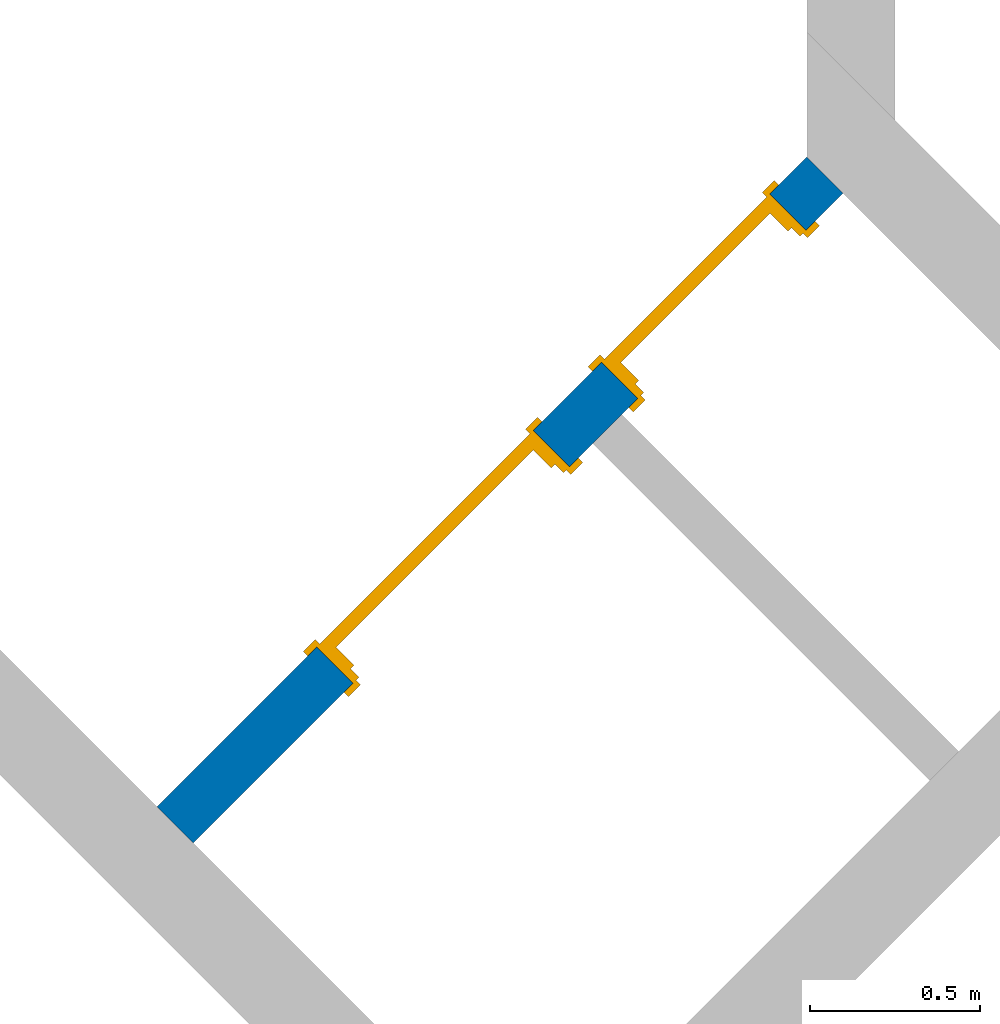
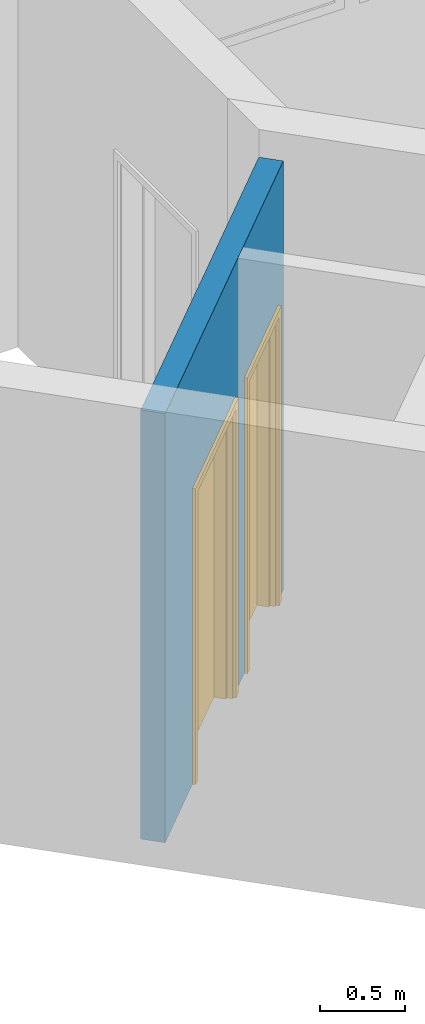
# One storey, part 10 of 25: 2 doors, 1 wall, 2 openings.
"""IFC2X3 building model written with IfcOpenShell, lengths in millimetres."""

from ifc_helpers import new_model, entity, si_unit, converted_unit, derived_unit, money_unit, direction, frame, origin_with_axes, place, context, subcontext, project, spatial, faceted_brep, source, transform, mapped, material, type_object, element, fill, save


model = new_model("IFC2X3")

# Units and contexts
model_context = context("Model", 3, precision=0.01, world=origin_with_axes(), true_north=direction((0.0, 1.0)))
body_context = subcontext(model_context, "Body", "Model", "MODEL_VIEW")
ifc_project = project(units=[si_unit("LENGTHUNIT", "METRE", prefix="MILLI"), si_unit("AREAUNIT", "SQUARE_METRE"), si_unit("VOLUMEUNIT", "CUBIC_METRE"), converted_unit("PLANEANGLEUNIT", "DEGREE", entity("IfcPlaneAngleMeasure", 0.0174532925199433), si_unit("PLANEANGLEUNIT", "RADIAN"), dimensions=[0, 0, 0, 0, 0, 0, 0]), money_unit("USD"), converted_unit("TIMEUNIT", "Year", entity("IfcTimeMeasure", 31557600.0), si_unit("TIMEUNIT", "SECOND"), dimensions=[0, 0, 1, 0, 0, 0, 0]), si_unit("MASSUNIT", "GRAM", prefix="KILO"), si_unit("THERMODYNAMICTEMPERATUREUNIT", "DEGREE_CELSIUS"), si_unit("LUMINOUSINTENSITYUNIT", "LUMEN"), si_unit("ENERGYUNIT", "JOULE", prefix="MEGA"), derived_unit("THERMALCONDUCTANCEUNIT", [(si_unit("POWERUNIT", "WATT"), 1), (si_unit("LENGTHUNIT", "METRE"), -1), (si_unit("THERMODYNAMICTEMPERATUREUNIT", "KELVIN"), -1)]), derived_unit("SPECIFICHEATCAPACITYUNIT", [(si_unit("ENERGYUNIT", "JOULE"), 1), (si_unit("MASSUNIT", "GRAM", prefix="KILO"), -1), (si_unit("THERMODYNAMICTEMPERATUREUNIT", "KELVIN"), -1)]), derived_unit("MASSDENSITYUNIT", [(si_unit("MASSUNIT", "GRAM", prefix="KILO"), 1), (si_unit("VOLUMEUNIT", "CUBIC_METRE"), -1)])], contexts=[model_context])

# Site, building, storey
site_placement = place(None, origin_with_axes())
site = spatial("IfcSite", under=ifc_project, at=site_placement, Name="Site", CompositionType="ELEMENT")
building_placement = place(site_placement, origin_with_axes())
building = spatial("IfcBuilding", under=site, at=building_placement, Name="Building", CompositionType="ELEMENT")
storey_placement = place(building_placement, origin_with_axes())
storey = spatial("IfcBuildingStorey", under=building, at=storey_placement, Name="U ETG", CompositionType="ELEMENT", Elevation=0.0)

# Wall, openings, doors
ifc_material = material(Name="GENERIC - INTERNAL FILLER")
wall_type = type_object("IfcWallType", Name="GENERIC - INTERNAL FILLER 150", PredefinedType="NOTDEFINED")
wall_placement = place(storey_placement, frame((53558.92192135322, 2340.649007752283, 0.0), z_axis=(0.0, 0.0, 1.0), x_axis=(0.7071067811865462, 0.7071067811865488, 0.0)))
wall = element("IfcWall", 1, at=wall_placement, inside=storey, type_object=wall_type, material=ifc_material, Name="SW - 001", context=body_context, shape_type="Brep", body=[
    faceted_brep([(1846.478266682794, -149.9999999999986, 0.0), (1846.478266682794, -149.9999999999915, 2100.0), (2546.47826668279, -149.9999999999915, 2100.0), (2546.478266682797, -149.9999999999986, 0.0), (2699.62327068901, -149.9999999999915, 0.0), (2699.62327068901, -149.9999999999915, 3100.0), (0.0, -149.9999999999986, 3100.0), (0.0, -149.9999999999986, 0.0), (663.1083393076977, -149.9999999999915, 0.0), (663.1083393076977, -149.9999999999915, 2100.0), (1563.108339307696, -149.9999999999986, 2100.0), (1563.108339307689, -149.9999999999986, 0.0), (1846.478266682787, 0.0, 0.0), (1846.47826668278, 0.0, 2100.0), (2546.47826668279, 0.0, 2100.0), (2546.47826668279, 0.0, 0.0), (2699.62327068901, 0.0, 0.0), (2699.62327068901, 0.0, 3100.0), (0.0, 0.0, 3100.0), (0.0, 0.0, 0.0), (663.1083393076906, 0.0, 0.0), (663.1083393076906, 0.0, 2100.0), (1563.108339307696, 0.0, 2100.0), (1563.108339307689, 0.0, 0.0)], [[[0, 1, 2, 3, 4, 5, 6, 7, 8, 9, 10, 11]], [[1, 0, 12, 13]], [[2, 1, 13, 14]], [[3, 2, 14, 15]], [[3, 15, 16, 4]], [[5, 4, 16, 17]], [[17, 18, 6, 5]], [[6, 18, 19, 7]], [[8, 7, 19, 20]], [[8, 20, 21, 9]], [[9, 21, 22, 10]], [[10, 22, 23, 11]], [[12, 0, 11, 23]], [[13, 12, 23, 22, 21, 20, 19, 18, 17, 16, 15, 14]]]),
])
opening_1_placement = place(wall_placement, frame((1113.108339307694, 0.0, 0.0), z_axis=(0.0, 0.0, 1.0), x_axis=(1.0, 0.0, 0.0)))
opening_1 = element("IfcOpeningElement", 2, at=opening_1_placement, cuts=wall, Name="DOO - 002", context=body_context, shape_type="Brep", body=[
    faceted_brep([(450.0000000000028, 0.0, 0.0), (450.0000000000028, 0.0, 2100.0), (449.9999999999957, -149.9999999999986, 2100.0), (449.9999999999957, -149.9999999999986, 0.0), (-449.9999999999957, 0.0, 2100.0), (487.0000000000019, 0.0, 0.0), (487.0000000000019, 0.0, 2137.0), (-487.0000000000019, 0.0, 2137.0), (-487.0000000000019, 0.0, 0.0), (-450.0000000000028, 0.0, 0.0), (-449.9999999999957, -149.9999999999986, 2100.0), (-450.0000000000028, -150.0000000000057, 0.0), (-486.9999999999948, -149.9999999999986, 0.0), (-486.9999999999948, -149.9999999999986, 2137.0), (487.0000000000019, -149.9999999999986, 2137.0), (487.0000000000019, -149.9999999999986, 0.0), (450.0000000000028, 1350.811635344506, 0.0), (450.0000000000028, -1500.811635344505, 0.0), (-449.9999999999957, -1500.811635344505, 0.0), (-449.9999999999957, 1350.811635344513, 0.0), (487.0000000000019, 1350.811635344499, 0.0), (487.0000000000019, 1350.811635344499, 2137.0), (-487.0000000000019, 1350.811635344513, 2137.0), (-487.0000000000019, 1350.811635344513, 0.0), (-486.9999999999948, -1500.811635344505, 0.0), (-486.9999999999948, -1500.811635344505, 2137.0), (487.0000000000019, -1500.811635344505, 2137.0), (487.0000000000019, -1500.811635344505, 0.0), (450.0000000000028, 1350.811635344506, 2100.0), (-449.9999999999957, 1350.811635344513, 2100.0)], [[[0, 1, 2, 3]], [[4, 1, 0, 5, 6, 7, 8, 9]], [[1, 4, 10, 2]], [[3, 2, 10, 11, 12, 13, 14, 15]], [[16, 0, 3, 17, 18, 11, 9, 19]], [[0, 16, 20, 5]], [[6, 5, 20, 21]], [[7, 6, 21, 22]], [[8, 7, 22, 23]], [[19, 9, 8, 23]], [[4, 9, 11, 10]], [[11, 18, 24, 12]], [[13, 12, 24, 25]], [[14, 13, 25, 26]], [[15, 14, 26, 27]], [[17, 3, 15, 27]], [[17, 27, 26, 25, 24, 18]], [[28, 16, 19, 29]], [[16, 28, 29, 19, 23, 22, 21, 20]]]),
])
opening_2_placement = place(wall_placement, frame((2196.478266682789, 0.0, 0.0), z_axis=(0.0, 0.0, 1.0), x_axis=(1.0, 0.0, 0.0)))
opening_2 = element("IfcOpeningElement", 3, at=opening_2_placement, cuts=wall, Name="DOO - 002", context=body_context, shape_type="Brep", body=[
    faceted_brep([(350.0000000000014, 0.0, 0.0), (350.0000000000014, 0.0, 2100.0), (350.0000000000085, -149.9999999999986, 2100.0), (350.0000000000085, -149.9999999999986, 0.0), (-349.9999999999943, 0.0, 2100.0), (387.0000000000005, 0.0, 0.0), (387.0000000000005, 0.0, 2137.0), (-386.9999999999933, 0.0, 2137.0), (-386.9999999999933, 0.0, 0.0), (-350.0000000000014, 0.0, 0.0), (-349.9999999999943, -149.9999999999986, 2100.0), (-349.9999999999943, -149.9999999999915, 0.0), (-387.0000000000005, -149.9999999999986, 0.0), (-387.0000000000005, -149.9999999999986, 2137.0), (387.0000000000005, -149.9999999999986, 2137.0), (387.0000000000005, -149.9999999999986, 0.0), (350.0000000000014, 1350.811635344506, 0.0), (350.0000000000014, -1500.811635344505, 0.0), (-350.0000000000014, -1500.811635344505, 0.0), (-349.9999999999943, 1350.811635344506, 0.0), (387.0000000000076, 1350.811635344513, 0.0), (387.0000000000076, 1350.811635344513, 2137.0), (-387.0000000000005, 1350.811635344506, 2137.0), (-387.0000000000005, 1350.811635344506, 0.0), (-387.0000000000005, -1500.811635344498, 0.0), (-387.0000000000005, -1500.811635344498, 2137.0), (387.0000000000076, -1500.811635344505, 2137.0), (387.0000000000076, -1500.811635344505, 0.0), (350.0000000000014, 1350.811635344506, 2100.0), (-349.9999999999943, 1350.811635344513, 2100.0)], [[[0, 1, 2, 3]], [[4, 1, 0, 5, 6, 7, 8, 9]], [[1, 4, 10, 2]], [[3, 2, 10, 11, 12, 13, 14, 15]], [[16, 0, 3, 17, 18, 11, 9, 19]], [[0, 16, 20, 5]], [[6, 5, 20, 21]], [[7, 6, 21, 22]], [[8, 7, 22, 23]], [[19, 9, 8, 23]], [[4, 9, 11, 10]], [[11, 18, 24, 12]], [[13, 12, 24, 25]], [[14, 13, 25, 26]], [[15, 14, 26, 27]], [[17, 3, 15, 27]], [[17, 27, 26, 25, 24, 18]], [[28, 16, 19, 29]], [[16, 28, 29, 19, 23, 22, 21, 20]]]),
])
door_style_1 = type_object("IfcDoorStyle", Name="Dør", ConstructionType="NOTDEFINED", OperationType="SINGLE_SWING_LEFT", ParameterTakesPrecedence=False, Sizeable=False)
shared_shape_1 = source(origin_with_axes(), body_context, "Body", "Brep", [
    faceted_brep([(450.0, -115.0, 0.0), (450.0, -150.0, 0.0), (425.0, -150.0, 0.0), (425.0, -115.0, 0.0), (450.0, -115.0000000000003, 2100.0), (450.0, -150.0000000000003, 2100.0), (425.0, -150.0000000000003, 2075.0), (425.0, -115.0000000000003, 2075.0)], [[[0, 1, 2, 3]], [[4, 5, 1, 0]], [[1, 5, 6, 2]], [[3, 2, 6, 7]], [[0, 3, 7, 4]], [[7, 6, 5, 4]]]),
    faceted_brep([(-450.0, -115.0000000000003, 2100.0), (-450.0, -150.0000000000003, 2100.0), (-425.0, -150.0000000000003, 2075.0), (-425.0, -115.0000000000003, 2075.0), (-450.0, -115.0, 0.0), (-450.0, -150.0, 0.0), (-425.0, -150.0, 0.0), (-425.0, -115.0, 0.0)], [[[0, 1, 2, 3]], [[4, 5, 1, 0]], [[1, 5, 6, 2]], [[3, 2, 6, 7]], [[0, 3, 7, 4]], [[7, 6, 5, 4]]]),
    faceted_brep([(425.0, -115.0000000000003, 2075.0), (425.0, -150.0000000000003, 2075.0), (-425.0, -150.0000000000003, 2075.0), (-425.0, -115.0000000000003, 2075.0), (450.0, -115.0000000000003, 2100.0), (450.0, -150.0000000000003, 2100.0), (-450.0, -150.0000000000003, 2100.0), (-450.0, -115.0000000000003, 2100.0)], [[[0, 1, 2, 3]], [[4, 5, 1, 0]], [[1, 5, 6, 2]], [[3, 2, 6, 7]], [[0, 3, 7, 4]], [[7, 6, 5, 4]]]),
    faceted_brep([(487.0, -169.0, 0.0), (437.0, -169.0, 0.0), (437.0, -150.0, 0.0), (487.0, -150.0, 0.0), (487.0, -169.0000000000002, 2137.0), (437.0, -169.0000000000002, 2087.0), (437.0, -150.0000000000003, 2087.0), (487.0, -150.0000000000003, 2137.0)], [[[0, 1, 2, 3]], [[0, 4, 5, 1]], [[1, 5, 6, 2]], [[3, 2, 6, 7]], [[4, 0, 3, 7]], [[5, 4, 7, 6]]]),
    faceted_brep([(-487.0, -169.0000000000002, 2137.0), (-437.0, -169.0000000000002, 2087.0), (-437.0, -150.0000000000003, 2087.0), (-487.0, -150.0000000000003, 2137.0), (-487.0, -169.0, 0.0), (-437.0, -169.0, 0.0), (-437.0, -150.0, 0.0), (-487.0, -150.0, 0.0)], [[[0, 1, 2, 3]], [[0, 4, 5, 1]], [[1, 5, 6, 2]], [[3, 2, 6, 7]], [[4, 0, 3, 7]], [[5, 4, 7, 6]]]),
    faceted_brep([(487.0, -169.0000000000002, 2137.0), (437.0, -169.0000000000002, 2087.0), (437.0, -150.0000000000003, 2087.0), (487.0, -150.0000000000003, 2137.0), (-487.0, -169.0000000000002, 2137.0), (-437.0, -169.0000000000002, 2087.0), (-437.0, -150.0000000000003, 2087.0), (-487.0, -150.0000000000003, 2137.0)], [[[0, 1, 2, 3]], [[0, 4, 5, 1]], [[1, 5, 6, 2]], [[3, 2, 6, 7]], [[4, 0, 3, 7]], [[5, 4, 7, 6]]]),
    faceted_brep([(487.0, 19.0, 0.0), (487.0, 0.0, 0.0), (437.0, 0.0, 0.0), (437.0, 19.0, 0.0), (487.0, 18.99999999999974, 2137.0), (487.0, 0.0, 2137.0), (437.0, 0.0, 2087.0), (437.0, 18.99999999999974, 2087.0)], [[[0, 1, 2, 3]], [[4, 5, 1, 0]], [[1, 5, 6, 2]], [[3, 2, 6, 7]], [[0, 3, 7, 4]], [[7, 6, 5, 4]]]),
    faceted_brep([(-487.0, 18.99999999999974, 2137.0), (-487.0, 0.0, 2137.0), (-437.0, 0.0, 2087.0), (-437.0, 18.99999999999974, 2087.0), (-487.0, 19.0, 0.0), (-487.0, 0.0, 0.0), (-437.0, 0.0, 0.0), (-437.0, 19.0, 0.0)], [[[0, 1, 2, 3]], [[4, 5, 1, 0]], [[1, 5, 6, 2]], [[3, 2, 6, 7]], [[0, 3, 7, 4]], [[7, 6, 5, 4]]]),
    faceted_brep([(487.0, 18.99999999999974, 2137.0), (487.0, 0.0, 2137.0), (437.0, 0.0, 2087.0), (437.0, 18.99999999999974, 2087.0), (-487.0, 18.99999999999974, 2137.0), (-487.0, 0.0, 2137.0), (-437.0, 0.0, 2087.0), (-437.0, 18.99999999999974, 2087.0)], [[[0, 1, 2, 3]], [[4, 5, 1, 0]], [[1, 5, 6, 2]], [[3, 2, 6, 7]], [[0, 3, 7, 4]], [[7, 6, 5, 4]]]),
    faceted_brep([(450.0, 0.0, 0.0), (450.0, -115.0, 0.0), (410.0000000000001, -115.0, 0.0), (410.0000000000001, 0.0, 0.0), (450.0, 0.0, 2060.0), (450.0, -115.0, 2060.0), (410.0000000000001, -115.0, 2060.0), (410.0000000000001, 0.0, 2060.0)], [[[0, 1, 2, 3]], [[4, 5, 1, 0]], [[1, 5, 6, 2]], [[3, 2, 6, 7]], [[0, 3, 7, 4]], [[7, 6, 5, 4]]]),
    faceted_brep([(-450.0, 0.0, 0.0), (-450.0, -115.0, 0.0), (-450.0, -115.0, 2060.0), (-450.0, 0.0, 2060.0), (-410.0000000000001, 0.0, 0.0), (-410.0000000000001, -115.0, 0.0), (-410.0000000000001, -115.0, 2060.0), (-410.0000000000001, 0.0, 2060.0)], [[[0, 1, 2, 3]], [[4, 5, 1, 0]], [[1, 5, 6, 2]], [[3, 2, 6, 7]], [[0, 3, 7, 4]], [[7, 6, 5, 4]]]),
    faceted_brep([(450.0, 0.0, 2100.0), (450.0, -115.0, 2100.0), (450.0, -115.0, 2060.0), (450.0, 0.0, 2060.0), (-450.0, 0.0, 2100.0), (-450.0, -115.0, 2100.0), (-450.0, -115.0, 2060.0), (-410.0000000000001, -115.0, 2060.0), (410.0000000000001, -115.0, 2060.0), (410.0000000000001, 0.0, 2060.0), (-410.0000000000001, 0.0, 2060.0), (-450.0, 0.0, 2060.0)], [[[0, 1, 2, 3]], [[4, 5, 1, 0]], [[1, 5, 6, 7, 8, 2]], [[3, 2, 8, 9]], [[0, 3, 9, 10, 11, 4]], [[11, 6, 5, 4]], [[10, 7, 6, 11]], [[9, 8, 7, 10]]]),
    faceted_brep([(-409.9999999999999, 0.0, 0.0), (410.0000000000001, 0.0, 0.0), (410.0000000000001, -40.0, 0.0), (-409.9999999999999, -40.0, 0.0), (-409.9999999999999, 0.0, 2060.0), (410.0000000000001, 0.0, 2060.0), (410.0000000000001, -40.00000000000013, 2060.0), (-409.9999999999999, -40.00000000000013, 2060.0)], [[[0, 1, 2, 3]], [[0, 4, 5, 1]], [[1, 5, 6, 2]], [[3, 2, 6, 7]], [[4, 0, 3, 7]], [[5, 4, 7, 6]]]),
])
door_1_placement = place(opening_1_placement, frame((-450.0000000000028, 0.0, 0.0), z_axis=(0.0, 0.0, 1.0), x_axis=(1.0, 0.0, 0.0)))
door_1 = element("IfcDoor", 4, at=door_1_placement, inside=storey, type_object=door_style_1, Name="DOO - 002", ObjectType="DOOR", OverallHeight=2100.0, OverallWidth=900.0, context=body_context, shape_type="MappedRepresentation", body=[
    mapped(shared_shape_1, transform((450.0000000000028, 0.0, 0.0))),
])
fill(opening_1, door_1)
door_style_2 = type_object("IfcDoorStyle", Name="Dør", ConstructionType="NOTDEFINED", OperationType="SINGLE_SWING_RIGHT", ParameterTakesPrecedence=False, Sizeable=False)
shared_shape_2 = source(origin_with_axes(), body_context, "Body", "Brep", [
    faceted_brep([(-350.0, -115.0, 0.0), (-324.9999999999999, -115.0, 0.0), (-324.9999999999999, -150.0, 0.0), (-350.0, -150.0, 0.0), (-350.0, -115.0000000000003, 2100.0), (-324.9999999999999, -115.0000000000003, 2075.0), (-324.9999999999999, -150.0000000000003, 2075.0), (-350.0, -150.0000000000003, 2100.0)], [[[0, 1, 2, 3]], [[0, 4, 5, 1]], [[1, 5, 6, 2]], [[3, 2, 6, 7]], [[4, 0, 3, 7]], [[5, 4, 7, 6]]]),
    faceted_brep([(350.0, -115.0000000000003, 2100.0), (324.9999999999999, -115.0000000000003, 2075.0), (324.9999999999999, -150.0000000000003, 2075.0), (350.0, -150.0000000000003, 2100.0), (350.0, -115.0, 0.0), (324.9999999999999, -115.0, 0.0), (324.9999999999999, -150.0, 0.0), (350.0, -150.0, 0.0)], [[[0, 1, 2, 3]], [[0, 4, 5, 1]], [[1, 5, 6, 2]], [[3, 2, 6, 7]], [[4, 0, 3, 7]], [[5, 4, 7, 6]]]),
    faceted_brep([(-324.9999999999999, -115.0000000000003, 2075.0), (324.9999999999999, -115.0000000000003, 2075.0), (324.9999999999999, -150.0000000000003, 2075.0), (-324.9999999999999, -150.0000000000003, 2075.0), (-350.0, -115.0000000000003, 2100.0), (350.0, -115.0000000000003, 2100.0), (350.0, -150.0000000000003, 2100.0), (-350.0, -150.0000000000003, 2100.0)], [[[0, 1, 2, 3]], [[0, 4, 5, 1]], [[1, 5, 6, 2]], [[3, 2, 6, 7]], [[4, 0, 3, 7]], [[5, 4, 7, 6]]]),
    faceted_brep([(-386.9999999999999, -169.0, 0.0), (-386.9999999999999, -150.0, 0.0), (-336.9999999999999, -150.0, 0.0), (-336.9999999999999, -169.0, 0.0), (-386.9999999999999, -169.0000000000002, 2137.0), (-386.9999999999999, -150.0000000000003, 2137.0), (-336.9999999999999, -150.0000000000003, 2087.0), (-336.9999999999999, -169.0000000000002, 2087.0)], [[[0, 1, 2, 3]], [[4, 5, 1, 0]], [[1, 5, 6, 2]], [[3, 2, 6, 7]], [[0, 3, 7, 4]], [[7, 6, 5, 4]]]),
    faceted_brep([(386.9999999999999, -169.0000000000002, 2137.0), (386.9999999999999, -150.0000000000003, 2137.0), (336.9999999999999, -150.0000000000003, 2087.0), (336.9999999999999, -169.0000000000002, 2087.0), (386.9999999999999, -169.0, 0.0), (386.9999999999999, -150.0, 0.0), (336.9999999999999, -150.0, 0.0), (336.9999999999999, -169.0, 0.0)], [[[0, 1, 2, 3]], [[4, 5, 1, 0]], [[1, 5, 6, 2]], [[3, 2, 6, 7]], [[0, 3, 7, 4]], [[7, 6, 5, 4]]]),
    faceted_brep([(-386.9999999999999, -169.0000000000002, 2137.0), (-386.9999999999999, -150.0000000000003, 2137.0), (-336.9999999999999, -150.0000000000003, 2087.0), (-336.9999999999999, -169.0000000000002, 2087.0), (386.9999999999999, -169.0000000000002, 2137.0), (386.9999999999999, -150.0000000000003, 2137.0), (336.9999999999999, -150.0000000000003, 2087.0), (336.9999999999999, -169.0000000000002, 2087.0)], [[[0, 1, 2, 3]], [[4, 5, 1, 0]], [[1, 5, 6, 2]], [[3, 2, 6, 7]], [[0, 3, 7, 4]], [[7, 6, 5, 4]]]),
    faceted_brep([(-386.9999999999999, 19.0, 0.0), (-336.9999999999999, 19.0, 0.0), (-336.9999999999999, 0.0, 0.0), (-386.9999999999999, 0.0, 0.0), (-386.9999999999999, 18.99999999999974, 2137.0), (-336.9999999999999, 18.99999999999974, 2087.0), (-336.9999999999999, 0.0, 2087.0), (-386.9999999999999, 0.0, 2137.0)], [[[0, 1, 2, 3]], [[0, 4, 5, 1]], [[1, 5, 6, 2]], [[3, 2, 6, 7]], [[4, 0, 3, 7]], [[5, 4, 7, 6]]]),
    faceted_brep([(386.9999999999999, 18.99999999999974, 2137.0), (336.9999999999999, 18.99999999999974, 2087.0), (336.9999999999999, 0.0, 2087.0), (386.9999999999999, 0.0, 2137.0), (386.9999999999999, 19.0, 0.0), (336.9999999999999, 19.0, 0.0), (336.9999999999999, 0.0, 0.0), (386.9999999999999, 0.0, 0.0)], [[[0, 1, 2, 3]], [[0, 4, 5, 1]], [[1, 5, 6, 2]], [[3, 2, 6, 7]], [[4, 0, 3, 7]], [[5, 4, 7, 6]]]),
    faceted_brep([(-387.0, 18.99999999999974, 2137.0), (-336.9999999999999, 18.99999999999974, 2087.0), (-336.9999999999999, 0.0, 2087.0), (-387.0, 0.0, 2137.0), (387.0, 18.99999999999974, 2137.0), (336.9999999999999, 18.99999999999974, 2087.0), (336.9999999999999, 0.0, 2087.0), (387.0, 0.0, 2137.0)], [[[0, 1, 2, 3]], [[0, 4, 5, 1]], [[1, 5, 6, 2]], [[3, 2, 6, 7]], [[4, 0, 3, 7]], [[5, 4, 7, 6]]]),
    faceted_brep([(-350.0, 0.0, 0.0), (-310.0, 0.0, 0.0), (-310.0, -115.0, 0.0), (-350.0, -115.0, 0.0), (-350.0, 0.0, 2060.0), (-310.0, 0.0, 2060.0), (-310.0, -115.0, 2060.0), (-350.0, -115.0, 2060.0)], [[[0, 1, 2, 3]], [[0, 4, 5, 1]], [[1, 5, 6, 2]], [[3, 2, 6, 7]], [[4, 0, 3, 7]], [[5, 4, 7, 6]]]),
    faceted_brep([(350.0, 0.0, 0.0), (350.0, 0.0, 2060.0), (350.0, -115.0, 2060.0), (350.0, -115.0, 0.0), (310.0, 0.0, 0.0), (310.0, 0.0, 2060.0), (310.0, -115.0, 2060.0), (310.0, -115.0, 0.0)], [[[0, 1, 2, 3]], [[0, 4, 5, 1]], [[1, 5, 6, 2]], [[3, 2, 6, 7]], [[4, 0, 3, 7]], [[5, 4, 7, 6]]]),
    faceted_brep([(-350.0, 0.0, 2100.0), (-350.0, 0.0, 2060.0), (-350.0, -115.0, 2060.0), (-350.0, -115.0, 2100.0), (350.0, 0.0, 2100.0), (350.0, 0.0, 2060.0), (310.0, 0.0, 2060.0), (-310.0, 0.0, 2060.0), (-310.0, -115.0, 2060.0), (310.0, -115.0, 2060.0), (350.0, -115.0, 2060.0), (350.0, -115.0, 2100.0)], [[[0, 1, 2, 3]], [[0, 4, 5, 6, 7, 1]], [[1, 7, 8, 2]], [[3, 2, 8, 9, 10, 11]], [[4, 0, 3, 11]], [[5, 4, 11, 10]], [[6, 5, 10, 9]], [[7, 6, 9, 8]]]),
    faceted_brep([(309.9999999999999, 0.0, 0.0), (309.9999999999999, -40.0, 0.0), (-310.0, -40.0, 0.0), (-310.0, 0.0, 0.0), (309.9999999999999, 0.0, 2060.0), (309.9999999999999, -40.00000000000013, 2060.0), (-310.0, -40.00000000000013, 2060.0), (-310.0, 0.0, 2060.0)], [[[0, 1, 2, 3]], [[4, 5, 1, 0]], [[1, 5, 6, 2]], [[3, 2, 6, 7]], [[0, 3, 7, 4]], [[7, 6, 5, 4]]]),
])
door_2_placement = place(opening_2_placement, frame((-350.0000000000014, 0.0, 0.0), z_axis=(0.0, 0.0, 1.0), x_axis=(1.0, 0.0, 0.0)))
door_2 = element("IfcDoor", 5, at=door_2_placement, inside=storey, type_object=door_style_2, Name="DOO - 002", ObjectType="DOOR", OverallHeight=2100.0, OverallWidth=700.0, context=body_context, shape_type="MappedRepresentation", body=[
    mapped(shared_shape_2, transform((350.0000000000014, 0.0, 0.0))),
])
fill(opening_2, door_2)

save(model, "model.ifc")
